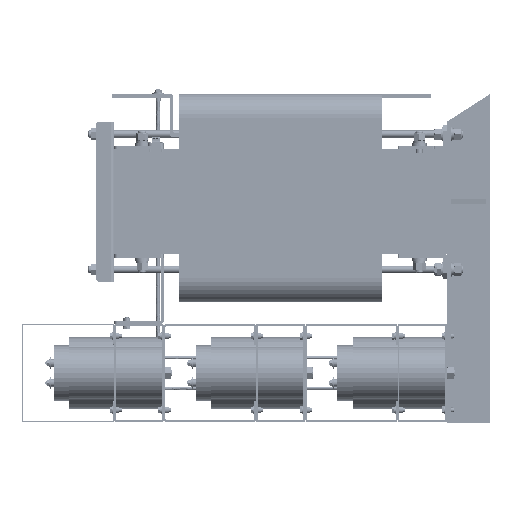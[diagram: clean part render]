
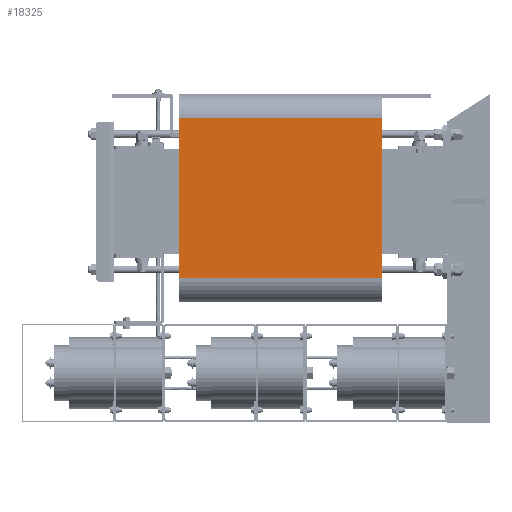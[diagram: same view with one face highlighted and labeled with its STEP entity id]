
A CAD part, left-side view. The second image highlights one B-rep face of the part: STEP entity #18325.
In plain terms, the highlighted planar face has unit normal (-1, 0, 0).
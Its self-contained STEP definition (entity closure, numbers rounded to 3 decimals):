
#18325=ADVANCED_FACE('',(#34732),#34734,.F.);
#34732=FACE_BOUND('',#34733,.T.);
#34733=EDGE_LOOP('',(#56524,#56525,#56526,#56527));
#34734=PLANE('',#34735);
#34735=AXIS2_PLACEMENT_3D('',#34736,#34737,#34738);
#34736=CARTESIAN_POINT('',(-91.5,163.,165.));
#34737=DIRECTION('',(1.,0.,0.));
#34738=DIRECTION('',(0.,1.,0.));
#56524=ORIENTED_EDGE('',*,*,#64757,.F.);
#56525=ORIENTED_EDGE('',*,*,#64791,.T.);
#56526=ORIENTED_EDGE('',*,*,#64771,.T.);
#56527=ORIENTED_EDGE('',*,*,#64792,.T.);
#64757=EDGE_CURVE('',#70557,#70559,#70560,.T.);
#64771=EDGE_CURVE('',#70586,#70587,#70588,.T.);
#64791=EDGE_CURVE('',#70557,#70586,#70622,.T.);
#64792=EDGE_CURVE('',#70587,#70559,#70623,.T.);
#70557=VERTEX_POINT('',#82954);
#70559=VERTEX_POINT('',#82959);
#70560=LINE('',#82960,#82961);
#70586=VERTEX_POINT('',#83021);
#70587=VERTEX_POINT('',#83022);
#70588=LINE('',#83023,#83024);
#70622=LINE('',#83105,#83106);
#70623=LINE('',#83108,#83109);
#82954=CARTESIAN_POINT('',(-91.5,124.,165.));
#82959=CARTESIAN_POINT('',(-91.5,-136.,165.));
#82960=CARTESIAN_POINT('',(-91.5,124.,165.));
#82961=VECTOR('',#82962,1.);
#82962=DIRECTION('',(0.,-1.,0.));
#83021=CARTESIAN_POINT('',(-91.5,124.,-165.));
#83022=CARTESIAN_POINT('',(-91.5,-136.,-165.));
#83023=CARTESIAN_POINT('',(-91.5,124.,-165.));
#83024=VECTOR('',#83025,1.);
#83025=DIRECTION('',(0.,-1.,0.));
#83105=CARTESIAN_POINT('',(-91.5,124.,165.));
#83106=VECTOR('',#83107,1.);
#83107=DIRECTION('',(0.,0.,-1.));
#83108=CARTESIAN_POINT('',(-91.5,-136.,-165.));
#83109=VECTOR('',#83110,1.);
#83110=DIRECTION('',(0.,0.,1.));
